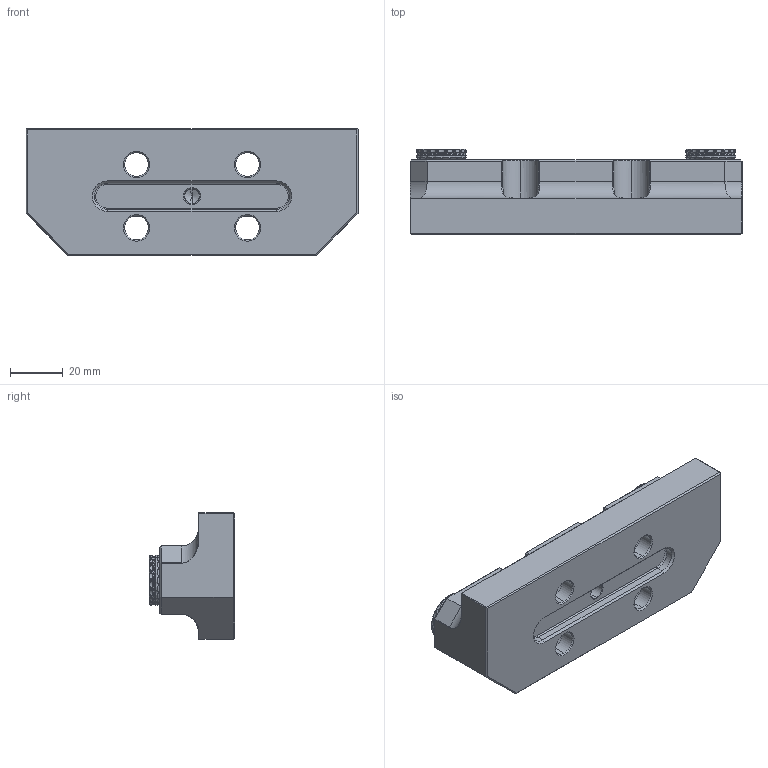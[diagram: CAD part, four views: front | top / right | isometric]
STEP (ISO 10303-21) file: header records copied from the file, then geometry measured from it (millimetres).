
FILE_DESCRIPTION (( 'STEP AP203' ), '1' );
FILE_NAME ('V562X-5RG.STEP', '2022-09-20T18:28:42', ( '' ), ( '' ), 'SwSTEP 2.0', 'SolidWorks 2021', '' );
FILE_SCHEMA (( 'CONFIG_CONTROL_DESIGN' ));
Length unit declared in the file: inch
Products named in the file (5): V562X-5R-1; VRG-2 REV P03; VRG-1 NEW 2 ROW; 91294A239_Black-Oxide Alloy Steel Hex Drive Flat Head Screw (1)_91294A239; V562X-5RG
Assembly tree (13 placements, depth 2):
  V562X-5RG
    VRG-1 NEW 2 ROW  x2
    V562X-5R-1
    91294A239_Black-Oxide Alloy Steel Hex Drive Flat Head Screw (1)_91294A239  x6
    VRG-2 REV P03  x4
Bounding box: 125.73 x 32.25 x 48 mm (x, y, z)
Volume: 113280.3 mm3; surface area: 34970.7 mm2
Topology: 19 solids, 19 shells, 1010 faces, 2495 edges, 1532 vertices
Faces by surface type: cylinder 526, plane 214, cone 180, torus 64, bspline 26
Entity records: 23851 total; most frequent: CARTESIAN_POINT 10681, ORIENTED_EDGE 2656, DIRECTION 2545, EDGE_CURVE 1328, AXIS2_PLACEMENT_3D 988, VERTEX_POINT 812, EDGE_LOOP 572, VECTOR 569
